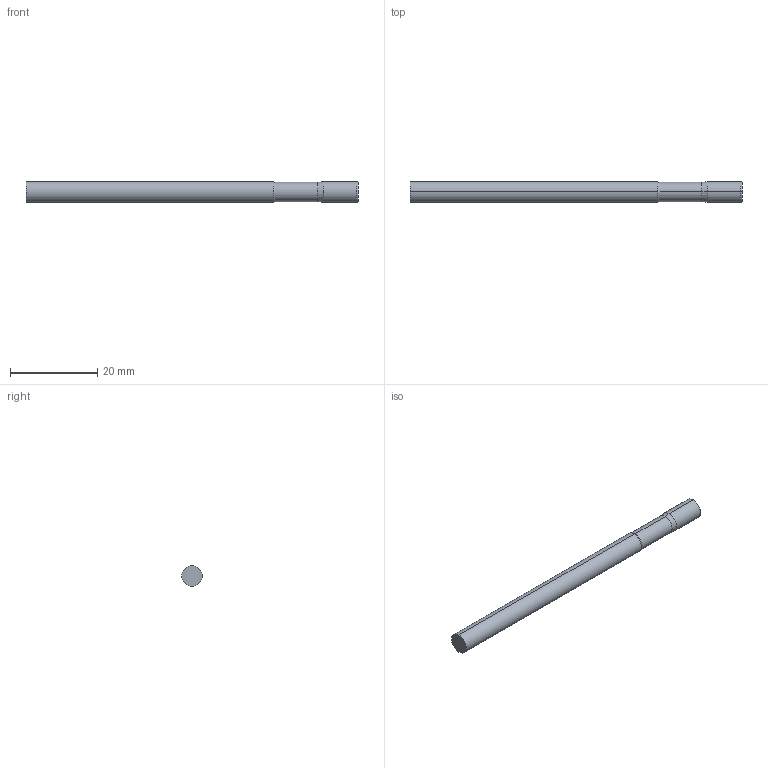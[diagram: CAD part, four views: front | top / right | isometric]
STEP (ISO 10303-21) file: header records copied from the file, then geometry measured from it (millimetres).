
FILE_DESCRIPTION (( 'STEP AP214' ), '1' );
FILE_NAME ('SSIRNM50187-010.STEP', '2025-05-28T13:24:29', ( '' ), ( '' ), 'SwSTEP 2.0', 'SolidWorks 2023', '' );
FILE_SCHEMA (( 'AUTOMOTIVE_DESIGN' ));
Length unit declared in the file: inch
Products named in the file (3): SSI5 Imperial LOC ONLY_SSIRNM50187-010; SSIRNM50187-010; SSI5 Imperial SHANK ONLY_SSIRNM50187-010
Assembly tree (2 placements, depth 2):
  SSIRNM50187-010
    SSI5 Imperial LOC ONLY_SSIRNM50187-010
    SSI5 Imperial SHANK ONLY_SSIRNM50187-010
Bounding box: 76.2 x 4.76 x 4.76 mm (x, y, z)
Volume: 1332.1 mm3; surface area: 1199.3 mm2
Topology: 2 solids, 2 shells, 18 faces, 32 edges, 18 vertices
Faces by surface type: cylinder 6, cone 6, plane 4, torus 2
Entity records: 612 total; most frequent: DIRECTION 98, CARTESIAN_POINT 73, ORIENTED_EDGE 64, AXIS2_PLACEMENT_3D 43, EDGE_CURVE 32, CIRCLE 20, EDGE_LOOP 18, FACE_OUTER_BOUND 18
